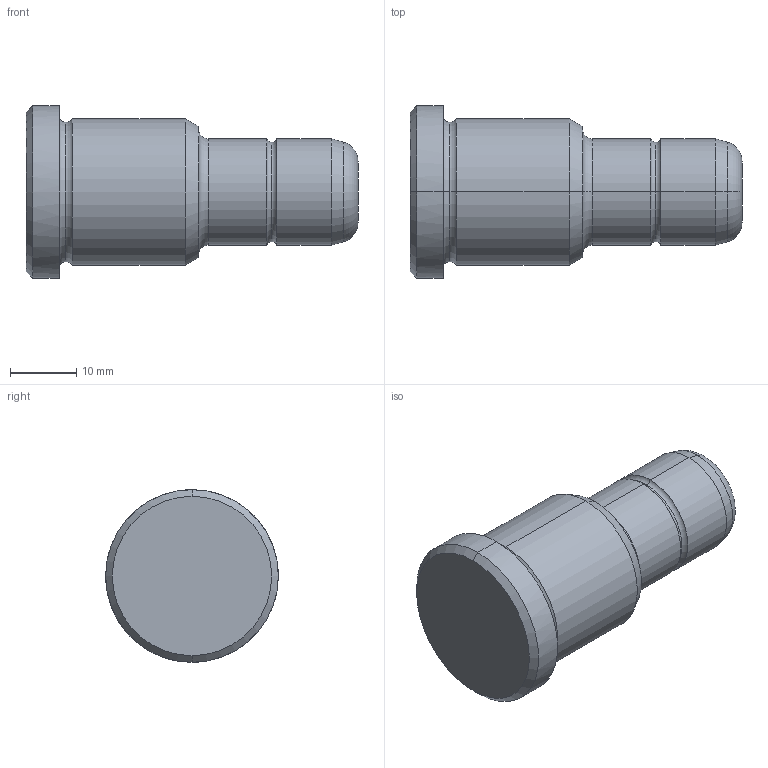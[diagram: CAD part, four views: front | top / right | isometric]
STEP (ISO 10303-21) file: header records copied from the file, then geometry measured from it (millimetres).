
FILE_DESCRIPTION(('CATIA V5 STEP Exchange'),'2;1');
FILE_NAME('C:\Users\Utente\Desktop\IO LAVORO\3D X SITO CF\X SITO\PLASTICA\351\351-16X26X50.stp','2021-08-18T10:55:11+00:00',('none'),('none'),'CATIA Version 5 Release 20 GA (IN-10)','CATIA V5 STEP AP203','none');
FILE_SCHEMA(('CONFIG_CONTROL_DESIGN'));
Length unit declared in the file: millimetre
Products named in the file (1): 351-16X26X50
Bounding box: 50 x 26 x 26 mm (x, y, z)
Volume: 15151.4 mm3; surface area: 3931.2 mm2
Topology: 1 solids, 1 shells, 30 faces, 86 edges, 60 vertices
Faces by surface type: torus 12, cylinder 8, cone 6, plane 4
Entity records: 1112 total; most frequent: CARTESIAN_POINT 289, ORIENTED_EDGE 172, DIRECTION 138, AXIS2_PLACEMENT_3D 95, EDGE_CURVE 86, CIRCLE 64, VERTEX_POINT 60, EDGE_LOOP 32
